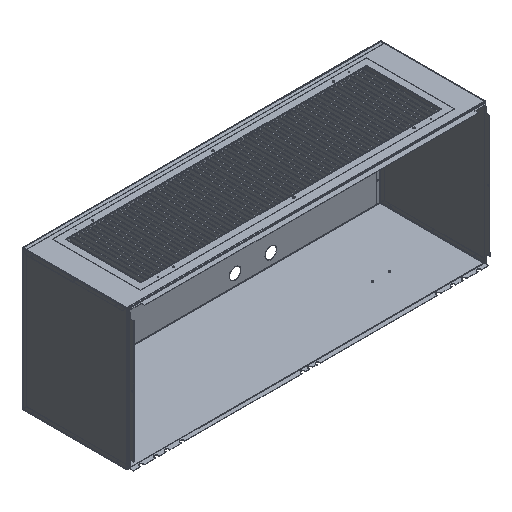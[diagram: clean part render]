
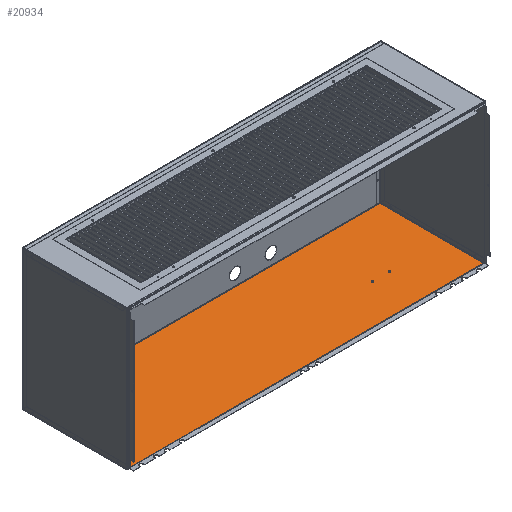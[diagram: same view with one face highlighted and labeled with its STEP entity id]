
A CAD part, isometric view. The second image highlights one B-rep face of the part: STEP entity #20934.
In plain terms, the highlighted planar face has unit normal (0, 0, 1) as drawn and (-1, 0, 0) by its records, which use the part's own axes.
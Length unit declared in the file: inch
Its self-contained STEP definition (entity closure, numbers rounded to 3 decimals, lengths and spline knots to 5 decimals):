
#79 = DIRECTION ( 'NONE',  ( 0., 0., -1. ) ) ;
#117 = DIRECTION ( 'NONE',  ( 1., 0., 0. ) ) ;
#180 = CARTESIAN_POINT ( 'NONE',  ( 7.61768, 62.39035, 8.53552 ) ) ;
#255 = VECTOR ( 'NONE', #14851, 39.37008 ) ;
#626 = LINE ( 'NONE', #27796, #781 ) ;
#781 = VECTOR ( 'NONE', #27722, 39.37008 ) ;
#988 = DIRECTION ( 'NONE',  ( 0., -1., 0. ) ) ;
#1092 = CARTESIAN_POINT ( 'NONE',  ( 7.61768, 25.46787, 0.08552 ) ) ;
#1601 = DIRECTION ( 'NONE',  ( 0., 1., 0. ) ) ;
#1671 = CARTESIAN_POINT ( 'NONE',  ( 7.61768, 25.46787, 13.88577 ) ) ;
#1901 = LINE ( 'NONE', #28962, #29669 ) ;
#2152 = EDGE_LOOP ( 'NONE', ( #30381, #4233 ) ) ;
#2699 = CARTESIAN_POINT ( 'NONE',  ( 7.61768, 60.14035, 8.53552 ) ) ;
#3773 = LINE ( 'NONE', #28933, #24711 ) ;
#3901 = LINE ( 'NONE', #14808, #255 ) ;
#4154 = EDGE_CURVE ( 'NONE', #25075, #18566, #30371, .T. ) ;
#4233 = ORIENTED_EDGE ( 'NONE', *, *, #29084, .T. ) ;
#4249 = CARTESIAN_POINT ( 'NONE',  ( 7.61768, 69.542, 13.88577 ) ) ;
#4273 = CARTESIAN_POINT ( 'NONE',  ( 7.61768, 60.14035, 8.41052 ) ) ;
#5078 = DIRECTION ( 'NONE',  ( -1., 0., 0. ) ) ;
#5138 = DIRECTION ( 'NONE',  ( 0., 0., 1. ) ) ;
#5228 = EDGE_LOOP ( 'NONE', ( #26156, #11103, #18987, #29055, #10966, #8006, #9926, #6987, #26017, #21787, #20265, #19466 ) ) ;
#5249 = CARTESIAN_POINT ( 'NONE',  ( 7.61768, 69.542, 13.83947 ) ) ;
#5428 = CARTESIAN_POINT ( 'NONE',  ( 7.61768, 25.46787, 14.5519 ) ) ;
#5496 = EDGE_CURVE ( 'NONE', #12323, #15534, #18554, .T. ) ;
#5987 = EDGE_CURVE ( 'NONE', #11477, #11722, #25576, .T. ) ;
#6133 = VERTEX_POINT ( 'NONE', #6747 ) ;
#6548 = EDGE_LOOP ( 'NONE', ( #7440, #8185 ) ) ;
#6612 = VECTOR ( 'NONE', #29694, 39.37008 ) ;
#6747 = CARTESIAN_POINT ( 'NONE',  ( 7.61768, 22.26875, 13.88577 ) ) ;
#6846 = VERTEX_POINT ( 'NONE', #23804 ) ;
#6987 = ORIENTED_EDGE ( 'NONE', *, *, #5987, .T. ) ;
#7217 = LINE ( 'NONE', #29586, #6612 ) ;
#7387 = VECTOR ( 'NONE', #20786, 39.37008 ) ;
#7440 = ORIENTED_EDGE ( 'NONE', *, *, #5496, .T. ) ;
#8006 = ORIENTED_EDGE ( 'NONE', *, *, #4154, .T. ) ;
#8185 = ORIENTED_EDGE ( 'NONE', *, *, #29277, .T. ) ;
#8460 = AXIS2_PLACEMENT_3D ( 'NONE', #21504, #21469, #21437 ) ;
#9315 = VECTOR ( 'NONE', #1601, 39.37008 ) ;
#9479 = VECTOR ( 'NONE', #21436, 39.37008 ) ;
#9480 = EDGE_CURVE ( 'NONE', #15651, #17874, #19398, .T. ) ;
#9926 = ORIENTED_EDGE ( 'NONE', *, *, #25071, .T. ) ;
#10384 = CARTESIAN_POINT ( 'NONE',  ( 7.61768, 69.609, 13.83947 ) ) ;
#10767 = DIRECTION ( 'NONE',  ( 0., 0., -1. ) ) ;
#10794 = DIRECTION ( 'NONE',  ( 1., 0., 0. ) ) ;
#10835 = LINE ( 'NONE', #11056, #16088 ) ;
#10867 = CARTESIAN_POINT ( 'NONE',  ( 7.61768, 60.14035, 8.53552 ) ) ;
#10886 = DIRECTION ( 'NONE',  ( 0., 1., 0. ) ) ;
#10966 = ORIENTED_EDGE ( 'NONE', *, *, #12876, .T. ) ;
#11056 = CARTESIAN_POINT ( 'NONE',  ( 7.61768, 25.46787, 13.83947 ) ) ;
#11103 = ORIENTED_EDGE ( 'NONE', *, *, #20135, .T. ) ;
#11477 = VERTEX_POINT ( 'NONE', #19243 ) ;
#11722 = VERTEX_POINT ( 'NONE', #14595 ) ;
#11933 = VECTOR ( 'NONE', #25339, 39.37008 ) ;
#12323 = VERTEX_POINT ( 'NONE', #4273 ) ;
#12876 = EDGE_CURVE ( 'NONE', #30906, #25075, #28703, .T. ) ;
#13618 = AXIS2_PLACEMENT_3D ( 'NONE', #10867, #10794, #10767 ) ;
#13920 = CARTESIAN_POINT ( 'NONE',  ( 7.61768, 22.20632, 13.83947 ) ) ;
#14595 = CARTESIAN_POINT ( 'NONE',  ( 7.61768, 69.57012, 0.08552 ) ) ;
#14808 = CARTESIAN_POINT ( 'NONE',  ( 7.61768, 69.609, 14.5519 ) ) ;
#14851 = DIRECTION ( 'NONE',  ( 0., 0., -1. ) ) ;
#15020 = FACE_BOUND ( 'NONE', #2152, .T. ) ;
#15217 = CARTESIAN_POINT ( 'NONE',  ( 7.61768, 25.46787, 13.83947 ) ) ;
#15534 = VERTEX_POINT ( 'NONE', #26291 ) ;
#15562 = FACE_OUTER_BOUND ( 'NONE', #5228, .T. ) ;
#15651 = VERTEX_POINT ( 'NONE', #24700 ) ;
#15917 = CARTESIAN_POINT ( 'NONE',  ( 7.61768, 22.20632, 0.08552 ) ) ;
#15938 = PLANE ( 'NONE',  #22667 ) ;
#16088 = VECTOR ( 'NONE', #10886, 39.37008 ) ;
#17122 = LINE ( 'NONE', #1671, #9315 ) ;
#17228 = LINE ( 'NONE', #26236, #19699 ) ;
#17874 = VERTEX_POINT ( 'NONE', #24237 ) ;
#18130 = EDGE_CURVE ( 'NONE', #6846, #27968, #3773, .T. ) ;
#18554 = CIRCLE ( 'NONE', #13618, 0.125 ) ;
#18566 = VERTEX_POINT ( 'NONE', #10384 ) ;
#18987 = ORIENTED_EDGE ( 'NONE', *, *, #31341, .T. ) ;
#19186 = AXIS2_PLACEMENT_3D ( 'NONE', #2699, #24263, #24051 ) ;
#19243 = CARTESIAN_POINT ( 'NONE',  ( 7.61768, 69.609, 0.08552 ) ) ;
#19398 = CIRCLE ( 'NONE', #8460, 0.125 ) ;
#19466 = ORIENTED_EDGE ( 'NONE', *, *, #18130, .T. ) ;
#19699 = VECTOR ( 'NONE', #26072, 39.37008 ) ;
#19740 = AXIS2_PLACEMENT_3D ( 'NONE', #180, #117, #79 ) ;
#20135 = EDGE_CURVE ( 'NONE', #30699, #24833, #10835, .T. ) ;
#20265 = ORIENTED_EDGE ( 'NONE', *, *, #29800, .T. ) ;
#20292 = CARTESIAN_POINT ( 'NONE',  ( 7.61768, 69.542, 14.5519 ) ) ;
#20786 = DIRECTION ( 'NONE',  ( 0., 0., -1. ) ) ;
#20934 = ADVANCED_FACE ( 'NONE', ( #15562, #15020, #26285 ), #15938, .T. ) ;
#21436 = DIRECTION ( 'NONE',  ( 0., 0., -1. ) ) ;
#21437 = DIRECTION ( 'NONE',  ( 0., 0., -1. ) ) ;
#21469 = DIRECTION ( 'NONE',  ( 1., 0., 0. ) ) ;
#21499 = CIRCLE ( 'NONE', #19186, 0.125 ) ;
#21504 = CARTESIAN_POINT ( 'NONE',  ( 7.61768, 62.39035, 8.53552 ) ) ;
#21787 = ORIENTED_EDGE ( 'NONE', *, *, #30019, .T. ) ;
#22011 = CARTESIAN_POINT ( 'NONE',  ( 7.61768, 69.57012, 14.5519 ) ) ;
#22667 = AXIS2_PLACEMENT_3D ( 'NONE', #5428, #5078, #5138 ) ;
#22907 = EDGE_CURVE ( 'NONE', #11722, #30184, #29435, .T. ) ;
#23639 = EDGE_CURVE ( 'NONE', #6133, #30906, #17122, .T. ) ;
#23804 = CARTESIAN_POINT ( 'NONE',  ( 7.61768, 22.24062, 0.08552 ) ) ;
#24012 = CARTESIAN_POINT ( 'NONE',  ( 7.61768, 69.57012, 0.08488 ) ) ;
#24051 = DIRECTION ( 'NONE',  ( 0., 0., -1. ) ) ;
#24237 = CARTESIAN_POINT ( 'NONE',  ( 7.61768, 62.39035, 8.66052 ) ) ;
#24263 = DIRECTION ( 'NONE',  ( 1., 0., 0. ) ) ;
#24700 = CARTESIAN_POINT ( 'NONE',  ( 7.61768, 62.39035, 8.41052 ) ) ;
#24711 = VECTOR ( 'NONE', #27928, 39.37008 ) ;
#24833 = VERTEX_POINT ( 'NONE', #27517 ) ;
#25071 = EDGE_CURVE ( 'NONE', #18566, #11477, #3901, .T. ) ;
#25075 = VERTEX_POINT ( 'NONE', #5249 ) ;
#25339 = DIRECTION ( 'NONE',  ( 0., 1., 0. ) ) ;
#25537 = CIRCLE ( 'NONE', #19740, 0.125 ) ;
#25576 = LINE ( 'NONE', #1092, #25754 ) ;
#25720 = EDGE_CURVE ( 'NONE', #27968, #30699, #1901, .T. ) ;
#25754 = VECTOR ( 'NONE', #988, 39.37008 ) ;
#26017 = ORIENTED_EDGE ( 'NONE', *, *, #22907, .T. ) ;
#26072 = DIRECTION ( 'NONE',  ( 0., -1., 0. ) ) ;
#26156 = ORIENTED_EDGE ( 'NONE', *, *, #25720, .T. ) ;
#26236 = CARTESIAN_POINT ( 'NONE',  ( 7.61768, -1.42424, 0.08487 ) ) ;
#26285 = FACE_BOUND ( 'NONE', #6548, .T. ) ;
#26291 = CARTESIAN_POINT ( 'NONE',  ( 7.61768, 60.14035, 8.66052 ) ) ;
#27107 = VERTEX_POINT ( 'NONE', #30636 ) ;
#27517 = CARTESIAN_POINT ( 'NONE',  ( 7.61768, 22.26875, 13.83947 ) ) ;
#27722 = DIRECTION ( 'NONE',  ( 0., 0., 1. ) ) ;
#27796 = CARTESIAN_POINT ( 'NONE',  ( 7.61768, 22.26875, 14.5519 ) ) ;
#27928 = DIRECTION ( 'NONE',  ( 0., -1., 0. ) ) ;
#27968 = VERTEX_POINT ( 'NONE', #15917 ) ;
#28450 = DIRECTION ( 'NONE',  ( 0., 0., 1. ) ) ;
#28703 = LINE ( 'NONE', #20292, #7387 ) ;
#28933 = CARTESIAN_POINT ( 'NONE',  ( 7.61768, 25.46787, 0.08552 ) ) ;
#28962 = CARTESIAN_POINT ( 'NONE',  ( 7.61768, 22.20632, 14.5519 ) ) ;
#29055 = ORIENTED_EDGE ( 'NONE', *, *, #23639, .T. ) ;
#29084 = EDGE_CURVE ( 'NONE', #17874, #15651, #25537, .T. ) ;
#29277 = EDGE_CURVE ( 'NONE', #15534, #12323, #21499, .T. ) ;
#29435 = LINE ( 'NONE', #22011, #9479 ) ;
#29586 = CARTESIAN_POINT ( 'NONE',  ( 7.61768, 22.24062, 14.5519 ) ) ;
#29669 = VECTOR ( 'NONE', #28450, 39.37008 ) ;
#29694 = DIRECTION ( 'NONE',  ( 0., 0., 1. ) ) ;
#29800 = EDGE_CURVE ( 'NONE', #27107, #6846, #7217, .T. ) ;
#30019 = EDGE_CURVE ( 'NONE', #30184, #27107, #17228, .T. ) ;
#30184 = VERTEX_POINT ( 'NONE', #24012 ) ;
#30371 = LINE ( 'NONE', #15217, #11933 ) ;
#30381 = ORIENTED_EDGE ( 'NONE', *, *, #9480, .T. ) ;
#30636 = CARTESIAN_POINT ( 'NONE',  ( 7.61768, 22.24062, 0.08488 ) ) ;
#30699 = VERTEX_POINT ( 'NONE', #13920 ) ;
#30906 = VERTEX_POINT ( 'NONE', #4249 ) ;
#31341 = EDGE_CURVE ( 'NONE', #24833, #6133, #626, .T. ) ;
